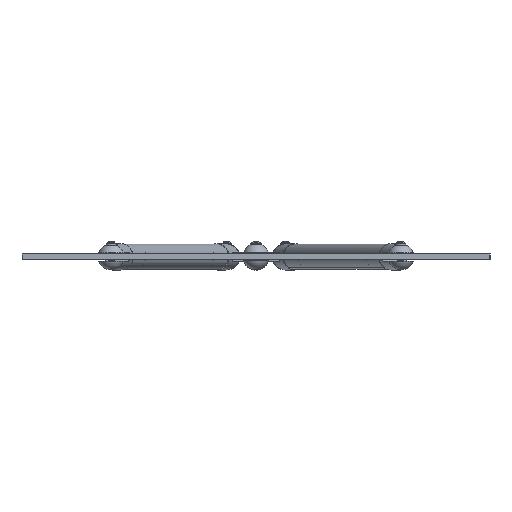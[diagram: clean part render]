
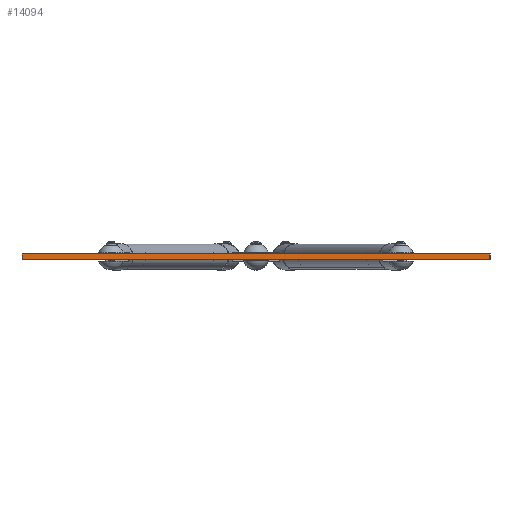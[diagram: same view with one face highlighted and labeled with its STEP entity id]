
A CAD part, front view. The second image highlights one B-rep face of the part: STEP entity #14094.
In plain terms, the highlighted planar face has unit normal (0, -1, 0) as drawn and (0, 0, -1) by its records, which use the part's own axes.
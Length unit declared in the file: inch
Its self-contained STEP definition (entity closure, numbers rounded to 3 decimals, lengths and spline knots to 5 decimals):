
#229 = DIRECTION ( 'NONE',  ( 0., -1., 0. ) ) ;
#732 = VECTOR ( 'NONE', #13835, 39.37008 ) ;
#1022 = EDGE_CURVE ( 'NONE', #15461, #7188, #9166, .T. ) ;
#1462 = CARTESIAN_POINT ( 'NONE',  ( 10.625, 0.125, 11.62321 ) ) ;
#1985 = CARTESIAN_POINT ( 'NONE',  ( 10.625, 0.125, 11.62321 ) ) ;
#2186 = CARTESIAN_POINT ( 'NONE',  ( 10.625, -0.125, 11.62321 ) ) ;
#2266 = EDGE_CURVE ( 'NONE', #15461, #10654, #13485, .T. ) ;
#2883 = ORIENTED_EDGE ( 'NONE', *, *, #11198, .F. ) ;
#3053 = LINE ( 'NONE', #11616, #5275 ) ;
#3062 = EDGE_CURVE ( 'NONE', #10654, #8726, #11440, .T. ) ;
#4104 = CARTESIAN_POINT ( 'NONE',  ( 10.625, -0.125, 11.62321 ) ) ;
#5275 = VECTOR ( 'NONE', #229, 39.37008 ) ;
#5551 = CARTESIAN_POINT ( 'NONE',  ( 10.625, 0.125, 11.62321 ) ) ;
#6171 = AXIS2_PLACEMENT_3D ( 'NONE', #5551, #14766, #6871 ) ;
#6217 = ORIENTED_EDGE ( 'NONE', *, *, #3062, .T. ) ;
#6645 = CARTESIAN_POINT ( 'NONE',  ( -9.375, -0.125, 11.62321 ) ) ;
#6871 = DIRECTION ( 'NONE',  ( 1., 0., 0. ) ) ;
#7188 = VERTEX_POINT ( 'NONE', #15226 ) ;
#8726 = VERTEX_POINT ( 'NONE', #6645 ) ;
#9166 = LINE ( 'NONE', #9314, #16390 ) ;
#9314 = CARTESIAN_POINT ( 'NONE',  ( 10.625, 0.125, 11.62321 ) ) ;
#10196 = EDGE_LOOP ( 'NONE', ( #6217, #2883, #10323, #15325 ) ) ;
#10323 = ORIENTED_EDGE ( 'NONE', *, *, #1022, .F. ) ;
#10654 = VERTEX_POINT ( 'NONE', #2186 ) ;
#11198 = EDGE_CURVE ( 'NONE', #7188, #8726, #3053, .T. ) ;
#11440 = LINE ( 'NONE', #4104, #15333 ) ;
#11616 = CARTESIAN_POINT ( 'NONE',  ( -9.375, 0.125, 11.62321 ) ) ;
#13220 = DIRECTION ( 'NONE',  ( -1., 0., 0. ) ) ;
#13325 = FACE_OUTER_BOUND ( 'NONE', #10196, .T. ) ;
#13485 = LINE ( 'NONE', #1985, #732 ) ;
#13835 = DIRECTION ( 'NONE',  ( 0., -1., 0. ) ) ;
#14094 = ADVANCED_FACE ( 'NONE', ( #13325 ), #14712, .F. ) ;
#14636 = DIRECTION ( 'NONE',  ( -1., 0., 0. ) ) ;
#14712 = PLANE ( 'NONE',  #6171 ) ;
#14766 = DIRECTION ( 'NONE',  ( 0., 0., 1. ) ) ;
#15226 = CARTESIAN_POINT ( 'NONE',  ( -9.375, 0.125, 11.62321 ) ) ;
#15325 = ORIENTED_EDGE ( 'NONE', *, *, #2266, .T. ) ;
#15333 = VECTOR ( 'NONE', #14636, 39.37008 ) ;
#15461 = VERTEX_POINT ( 'NONE', #1462 ) ;
#16390 = VECTOR ( 'NONE', #13220, 39.37008 ) ;
